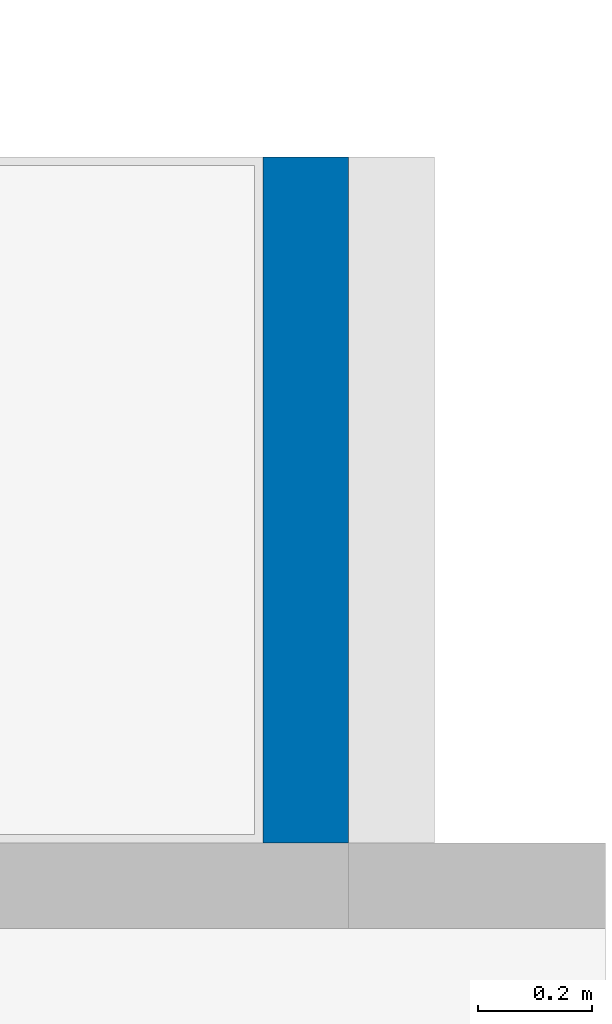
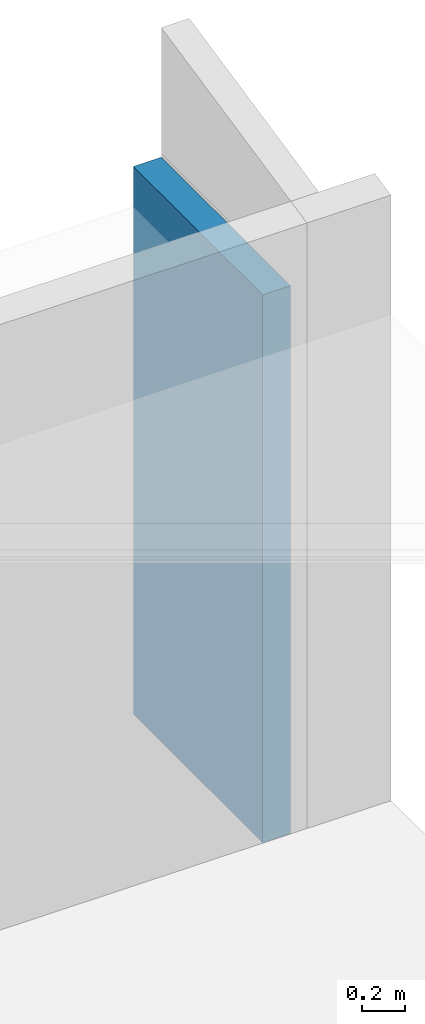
# One storey, part 5 of 5: 1 wall.
"""IFC4 building model written with IfcOpenShell, lengths in millimetres."""

from ifc_helpers import new_model, entity, si_unit, converted_unit, derived_unit, direction, frame, origin_with_axes, place, context, subcontext, project, spatial, polygons, material, constituent, constituent_set, type_object, element, save


model = new_model("IFC4")

# Units and contexts
model_context = context("Model", 3, precision=0.01, world=origin_with_axes(), true_north=direction((0.0, 1.0)))
body_context = subcontext(model_context, "Body", "Model", "MODEL_VIEW")
ifc_project = project(units=[si_unit("LENGTHUNIT", "METRE", prefix="MILLI"), si_unit("AREAUNIT", "SQUARE_METRE"), si_unit("VOLUMEUNIT", "CUBIC_METRE"), converted_unit("PLANEANGLEUNIT", "DEGREE", entity("IfcPlaneAngleMeasure", 0.0174532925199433), si_unit("PLANEANGLEUNIT", "RADIAN"), dimensions=[0, 0, 0, 0, 0, 0, 0]), converted_unit("TIMEUNIT", "Year", entity("IfcTimeMeasure", 31557600.0), si_unit("TIMEUNIT", "SECOND"), dimensions=[0, 0, 1, 0, 0, 0, 0]), si_unit("MASSUNIT", "GRAM", prefix="KILO"), si_unit("THERMODYNAMICTEMPERATUREUNIT", "DEGREE_CELSIUS"), si_unit("LUMINOUSINTENSITYUNIT", "LUMEN"), si_unit("ENERGYUNIT", "JOULE", prefix="MEGA"), derived_unit("THERMALCONDUCTANCEUNIT", [(si_unit("POWERUNIT", "WATT"), 1), (si_unit("LENGTHUNIT", "METRE"), -1), (si_unit("THERMODYNAMICTEMPERATUREUNIT", "KELVIN"), -1)]), derived_unit("SPECIFICHEATCAPACITYUNIT", [(si_unit("ENERGYUNIT", "JOULE"), 1), (si_unit("MASSUNIT", "GRAM", prefix="KILO"), -1), (si_unit("THERMODYNAMICTEMPERATUREUNIT", "KELVIN"), -1)]), derived_unit("MASSDENSITYUNIT", [(si_unit("MASSUNIT", "GRAM", prefix="KILO"), 1), (si_unit("VOLUMEUNIT", "CUBIC_METRE"), -1)])], contexts=[model_context])

# Site, building, storey
site_placement = place(None, origin_with_axes())
site = spatial("IfcSite", under=ifc_project, at=site_placement, Name="Exteriér", CompositionType="ELEMENT")
building_placement = place(site_placement, origin_with_axes())
building = spatial("IfcBuilding", under=site, at=building_placement, Name="Univerzitní lezecké centrum", CompositionType="ELEMENT")
storey_placement = place(building_placement, frame((0.0, 0.0, 9600.000000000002), z_axis=(0.0, 0.0, 1.0), x_axis=(1.0, 0.0, 0.0)))
storey = spatial("IfcBuildingStorey", under=building, at=storey_placement, Name="4.NP", CompositionType="ELEMENT", Elevation=9600.0)

# Wall
ifc_material_1 = material(Name="Keramická dlažba 20x40 - obklad")
ifc_constituent_1 = constituent(ifc_material_1, Name="Keramická dlažba 20x40 - obklad")
ifc_material_2 = material(Name="Lepicí tmel na dlažbu a obklady")
ifc_constituent_2 = constituent(ifc_material_2, Name="Lepicí tmel na dlažbu a obklady")
ifc_material_3 = material(Name="Sádrokarton - voděodolný")
ifc_constituent_3 = constituent(ifc_material_3, Name="Sádrokarton - voděodolný 1")
ifc_constituent_4 = constituent(ifc_material_3, Name="Sádrokarton - voděodolný 2")
ifc_material_4 = material(Name="SDK nosný rám")
ifc_constituent_5 = constituent(ifc_material_4, Name="SDK nosný rám")
ifc_constituent_set = constituent_set(constituents=[ifc_constituent_1, ifc_constituent_2, ifc_constituent_3, ifc_constituent_4, ifc_constituent_5], Name="SDK - instalační předstěna")
wall_type = type_object("IfcWallType", Name="SDK - instalační předstěna 150", PredefinedType="NOTDEFINED")
wall_placement = place(storey_placement, frame((9999.851648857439, 3199.999999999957, -120.000000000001), z_axis=(0.0, 0.0, 1.0), x_axis=(0.0, 1.0, 0.0)))
element("IfcWall", 1, at=wall_placement, inside=storey, type_object=wall_type, material=ifc_constituent_set, Name="St08", PredefinedType="NOTDEFINED", context=body_context, shape_type="Tessellation", body=[
    polygons([(0.0, 150.0000000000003, 3100.0), (0.0, 143.0000000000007, 3100.0), (1200.000000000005, 143.0000000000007, 3100.0), (1200.000000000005, 150.0000000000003, 3100.0), (0.0, 143.0000000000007, 0.0), (0.0, 150.0000000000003, 0.0), (1200.000000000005, 143.0000000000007, 0.0), (1200.000000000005, 150.0000000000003, 0.0)], [[[1, 2, 3, 4]], [[5, 2, 1, 6]], [[2, 5, 7, 3]], [[4, 3, 7, 8]], [[6, 1, 4, 8]], [[5, 6, 8, 7]]], closed=True),
    polygons([(0.0, 143.0000000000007, 3100.0), (0.0, 140.0000000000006, 3100.0), (1200.000000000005, 140.0000000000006, 3100.0), (1200.000000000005, 143.0000000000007, 3100.0), (0.0, 140.0000000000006, 0.0), (0.0, 143.0000000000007, 0.0), (1200.000000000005, 140.0000000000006, 0.0), (1200.000000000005, 143.0000000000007, 0.0)], [[[1, 2, 3, 4]], [[5, 2, 1, 6]], [[2, 5, 7, 3]], [[4, 3, 7, 8]], [[6, 1, 4, 8]], [[5, 6, 8, 7]]], closed=True),
    polygons([(0.0, 140.0000000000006, 3100.0), (0.0, 127.0000000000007, 3100.0), (1200.000000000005, 127.0000000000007, 3100.0), (1200.000000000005, 140.0000000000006, 3100.0), (0.0, 127.0000000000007, 0.0), (0.0, 140.0000000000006, 0.0), (1200.000000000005, 127.0000000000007, 0.0), (1200.000000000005, 140.0000000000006, 0.0)], [[[1, 2, 3, 4]], [[5, 2, 1, 6]], [[2, 5, 7, 3]], [[4, 3, 7, 8]], [[6, 1, 4, 8]], [[5, 6, 8, 7]]], closed=True),
    polygons([(0.0, 127.0000000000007, 3100.0), (0.0, 115.0000000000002, 3100.0), (1200.000000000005, 115.0000000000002, 3100.0), (1200.000000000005, 127.0000000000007, 3100.0), (0.0, 115.0000000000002, 0.0), (0.0, 127.0000000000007, 0.0), (1200.000000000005, 115.0000000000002, 0.0), (1200.000000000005, 127.0000000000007, 0.0)], [[[1, 2, 3, 4]], [[5, 2, 1, 6]], [[2, 5, 7, 3]], [[4, 3, 7, 8]], [[6, 1, 4, 8]], [[5, 6, 8, 7]]], closed=True),
    polygons([(0.0, 115.0000000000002, 3100.0), (0.0, 0.0, 3100.0), (1200.000000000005, 0.0, 3100.0), (1200.000000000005, 115.0000000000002, 3100.0), (0.0, 115.0000000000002, 0.0), (0.0, 0.0, 0.0), (1200.000000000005, 0.0, 0.0), (1200.000000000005, 115.0000000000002, 0.0)], [[[1, 2, 3, 4]], [[2, 1, 5, 6]], [[2, 6, 7, 3]], [[4, 3, 7, 8]], [[5, 1, 4, 8]], [[6, 5, 8, 7]]], closed=True),
])

save(model, "model.ifc")
